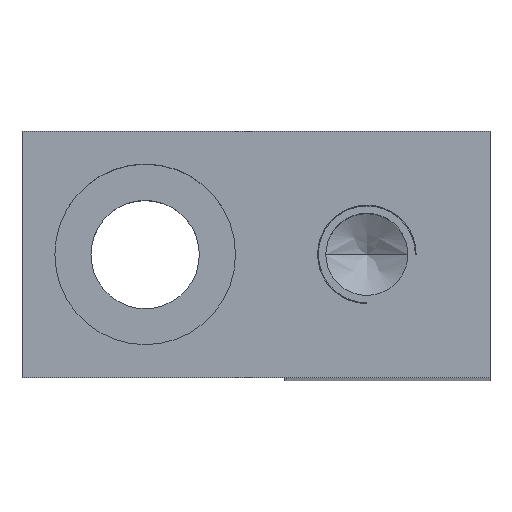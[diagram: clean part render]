
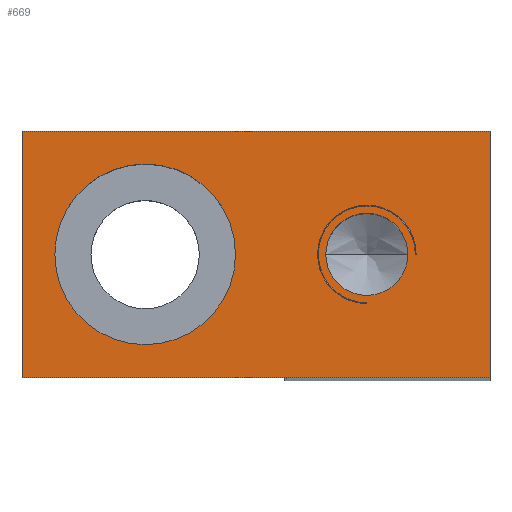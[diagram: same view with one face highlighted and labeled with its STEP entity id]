
A CAD part, top view. The second image highlights one B-rep face of the part: STEP entity #669.
In plain terms, the highlighted planar face has unit normal (0, 0, 1).
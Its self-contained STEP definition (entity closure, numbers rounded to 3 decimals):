
#15 = DIRECTION ( 'NONE',  ( 1., 0., 0. ) ) ;
#25 = DIRECTION ( 'NONE',  ( 0., 0., -1. ) ) ;
#32 = DIRECTION ( 'NONE',  ( 1., 0., 0. ) ) ;
#44 = EDGE_LOOP ( 'NONE', ( #939, #847 ) ) ;
#48 = DIRECTION ( 'NONE',  ( 0., 0., -1. ) ) ;
#49 = DIRECTION ( 'NONE',  ( 0., 0., -1. ) ) ;
#60 = VERTEX_POINT ( 'NONE', #1103 ) ;
#61 = FACE_BOUND ( 'NONE', #44, .T. ) ;
#95 = ORIENTED_EDGE ( 'NONE', *, *, #967, .T. ) ;
#102 = VECTOR ( 'NONE', #1052, 1000. ) ;
#114 = CARTESIAN_POINT ( 'NONE',  ( -89.5, 7.5, 114. ) ) ;
#124 = ORIENTED_EDGE ( 'NONE', *, *, #366, .T. ) ;
#134 = VERTEX_POINT ( 'NONE', #528 ) ;
#139 = VECTOR ( 'NONE', #648, 1000. ) ;
#152 = FACE_BOUND ( 'NONE', #510, .T. ) ;
#162 = CIRCLE ( 'NONE', #810, 2.95 ) ;
#176 = DIRECTION ( 'NONE',  ( 0., 0., -1. ) ) ;
#182 = CARTESIAN_POINT ( 'NONE',  ( -94., 0., 114. ) ) ;
#189 = DIRECTION ( 'NONE',  ( 0., -1., 0. ) ) ;
#194 = EDGE_CURVE ( 'NONE', #134, #416, #832, .T. ) ;
#198 = VERTEX_POINT ( 'NONE', #1084 ) ;
#227 = VECTOR ( 'NONE', #189, 1000. ) ;
#256 = AXIS2_PLACEMENT_3D ( 'NONE', #323, #944, #32 ) ;
#257 = DIRECTION ( 'NONE',  ( -1., 0., 0. ) ) ;
#259 = VECTOR ( 'NONE', #722, 1000. ) ;
#261 = LINE ( 'NONE', #359, #259 ) ;
#262 = EDGE_CURVE ( 'NONE', #868, #587, #1066, .T. ) ;
#291 = CARTESIAN_POINT ( 'NONE',  ( -118., -7.5, 114. ) ) ;
#298 = VERTEX_POINT ( 'NONE', #404 ) ;
#323 = CARTESIAN_POINT ( 'NONE',  ( -97., 0., 114. ) ) ;
#345 = CARTESIAN_POINT ( 'NONE',  ( -118., -7.5, 114. ) ) ;
#352 = DIRECTION ( 'NONE',  ( 0., -1., 0. ) ) ;
#359 = CARTESIAN_POINT ( 'NONE',  ( -118., 7.5, 114. ) ) ;
#364 = VERTEX_POINT ( 'NONE', #182 ) ;
#366 = EDGE_CURVE ( 'NONE', #1046, #198, #162, .T. ) ;
#393 = VERTEX_POINT ( 'NONE', #898 ) ;
#404 = CARTESIAN_POINT ( 'NONE',  ( -97., -3., 114. ) ) ;
#413 = EDGE_LOOP ( 'NONE', ( #1032, #666, #781, #95 ) ) ;
#415 = LINE ( 'NONE', #689, #102 ) ;
#416 = VERTEX_POINT ( 'NONE', #545 ) ;
#461 = CARTESIAN_POINT ( 'NONE',  ( -118., 7.5, 114. ) ) ;
#476 = VERTEX_POINT ( 'NONE', #1105 ) ;
#478 = ORIENTED_EDGE ( 'NONE', *, *, #627, .T. ) ;
#492 = ORIENTED_EDGE ( 'NONE', *, *, #262, .T. ) ;
#493 = EDGE_CURVE ( 'NONE', #60, #778, #1114, .T. ) ;
#496 = CARTESIAN_POINT ( 'NONE',  ( -97., 0., 114. ) ) ;
#510 = EDGE_LOOP ( 'NONE', ( #650, #124, #478, #661 ) ) ;
#516 = FACE_BOUND ( 'NONE', #1136, .T. ) ;
#528 = CARTESIAN_POINT ( 'NONE',  ( -89.5, -7.5, 114. ) ) ;
#529 = CIRCLE ( 'NONE', #938, 3. ) ;
#545 = CARTESIAN_POINT ( 'NONE',  ( -89.5, 7.5, 114. ) ) ;
#554 = CARTESIAN_POINT ( 'NONE',  ( -110.5, 0., 114. ) ) ;
#565 = EDGE_CURVE ( 'NONE', #587, #868, #692, .T. ) ;
#587 = VERTEX_POINT ( 'NONE', #941 ) ;
#602 = AXIS2_PLACEMENT_3D ( 'NONE', #1148, #703, #956 ) ;
#603 = ORIENTED_EDGE ( 'NONE', *, *, #565, .T. ) ;
#627 = EDGE_CURVE ( 'NONE', #198, #298, #415, .T. ) ;
#635 = VECTOR ( 'NONE', #257, 1000. ) ;
#641 = LINE ( 'NONE', #291, #139 ) ;
#648 = DIRECTION ( 'NONE',  ( 1., 0., 0. ) ) ;
#650 = ORIENTED_EDGE ( 'NONE', *, *, #1110, .T. ) ;
#661 = ORIENTED_EDGE ( 'NONE', *, *, #867, .T. ) ;
#666 = ORIENTED_EDGE ( 'NONE', *, *, #798, .F. ) ;
#669 = ADVANCED_FACE ( 'NONE', ( #1064, #61, #516, #152 ), #865, .T. ) ;
#689 = CARTESIAN_POINT ( 'NONE',  ( -97., -5.237, 114. ) ) ;
#692 = CIRCLE ( 'NONE', #737, 2.5 ) ;
#703 = DIRECTION ( 'NONE',  ( 0., 0., 1. ) ) ;
#722 = DIRECTION ( 'NONE',  ( 1., 0., 0. ) ) ;
#737 = AXIS2_PLACEMENT_3D ( 'NONE', #496, #49, #1039 ) ;
#761 = DIRECTION ( 'NONE',  ( 1., 0., 0. ) ) ;
#778 = VERTEX_POINT ( 'NONE', #345 ) ;
#781 = ORIENTED_EDGE ( 'NONE', *, *, #493, .T. ) ;
#790 = CIRCLE ( 'NONE', #853, 5.5 ) ;
#798 = EDGE_CURVE ( 'NONE', #60, #416, #261, .T. ) ;
#809 = CARTESIAN_POINT ( 'NONE',  ( -97., -2.5, 114. ) ) ;
#810 = AXIS2_PLACEMENT_3D ( 'NONE', #921, #839, #818 ) ;
#818 = DIRECTION ( 'NONE',  ( 0., -1., 0. ) ) ;
#827 = CARTESIAN_POINT ( 'NONE',  ( -94.05, 0., 114. ) ) ;
#832 = LINE ( 'NONE', #114, #1151 ) ;
#839 = DIRECTION ( 'NONE',  ( 0., 0., 1. ) ) ;
#847 = ORIENTED_EDGE ( 'NONE', *, *, #962, .T. ) ;
#853 = AXIS2_PLACEMENT_3D ( 'NONE', #554, #48, #761 ) ;
#865 = PLANE ( 'NONE',  #602 ) ;
#867 = EDGE_CURVE ( 'NONE', #298, #364, #529, .T. ) ;
#868 = VERTEX_POINT ( 'NONE', #809 ) ;
#880 = CIRCLE ( 'NONE', #1068, 5.5 ) ;
#888 = LINE ( 'NONE', #1156, #635 ) ;
#898 = CARTESIAN_POINT ( 'NONE',  ( -110.5, 5.5, 114. ) ) ;
#917 = CARTESIAN_POINT ( 'NONE',  ( -110.5, 0., 114. ) ) ;
#921 = CARTESIAN_POINT ( 'NONE',  ( -97., 0., 114. ) ) ;
#938 = AXIS2_PLACEMENT_3D ( 'NONE', #1163, #176, #352 ) ;
#939 = ORIENTED_EDGE ( 'NONE', *, *, #1044, .T. ) ;
#941 = CARTESIAN_POINT ( 'NONE',  ( -97., 2.5, 114. ) ) ;
#944 = DIRECTION ( 'NONE',  ( 0., 0., -1. ) ) ;
#956 = DIRECTION ( 'NONE',  ( 1., 0., 0. ) ) ;
#962 = EDGE_CURVE ( 'NONE', #393, #476, #880, .T. ) ;
#967 = EDGE_CURVE ( 'NONE', #778, #134, #641, .T. ) ;
#1032 = ORIENTED_EDGE ( 'NONE', *, *, #194, .T. ) ;
#1039 = DIRECTION ( 'NONE',  ( 1., 0., 0. ) ) ;
#1044 = EDGE_CURVE ( 'NONE', #476, #393, #790, .T. ) ;
#1046 = VERTEX_POINT ( 'NONE', #827 ) ;
#1052 = DIRECTION ( 'NONE',  ( 0., -1., 0. ) ) ;
#1064 = FACE_OUTER_BOUND ( 'NONE', #413, .T. ) ;
#1066 = CIRCLE ( 'NONE', #256, 2.5 ) ;
#1068 = AXIS2_PLACEMENT_3D ( 'NONE', #917, #25, #15 ) ;
#1084 = CARTESIAN_POINT ( 'NONE',  ( -97., -2.95, 114. ) ) ;
#1103 = CARTESIAN_POINT ( 'NONE',  ( -118., 7.5, 114. ) ) ;
#1105 = CARTESIAN_POINT ( 'NONE',  ( -110.5, -5.5, 114. ) ) ;
#1110 = EDGE_CURVE ( 'NONE', #364, #1046, #888, .T. ) ;
#1114 = LINE ( 'NONE', #461, #227 ) ;
#1136 = EDGE_LOOP ( 'NONE', ( #492, #603 ) ) ;
#1148 = CARTESIAN_POINT ( 'NONE',  ( -118., -7.5, 114. ) ) ;
#1151 = VECTOR ( 'NONE', #1171, 1000. ) ;
#1156 = CARTESIAN_POINT ( 'NONE',  ( -106.013, 0., 114. ) ) ;
#1163 = CARTESIAN_POINT ( 'NONE',  ( -97., 0., 114. ) ) ;
#1171 = DIRECTION ( 'NONE',  ( 0., 1., 0. ) ) ;
